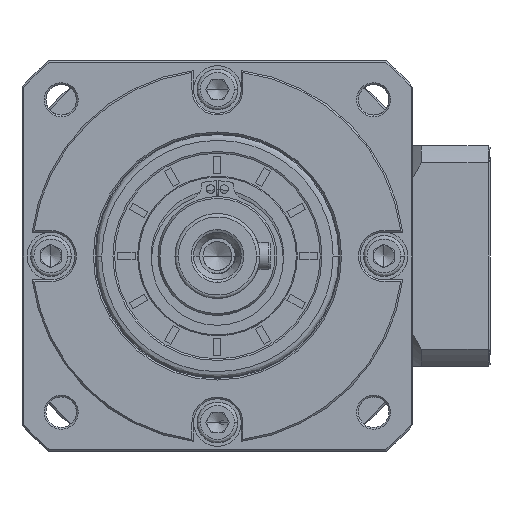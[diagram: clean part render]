
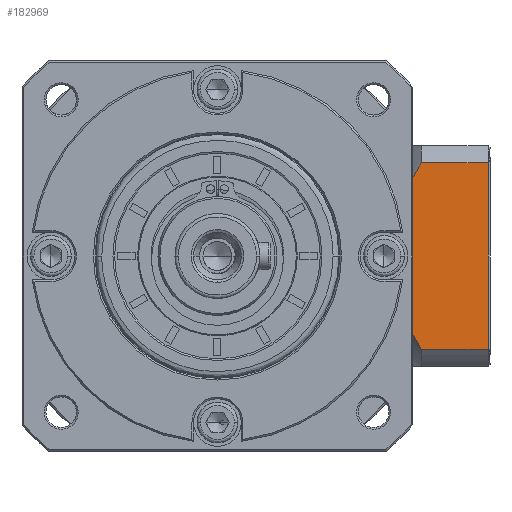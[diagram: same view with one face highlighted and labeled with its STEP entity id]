
A CAD part, left-side view. The second image highlights one B-rep face of the part: STEP entity #182969.
In plain terms, the highlighted planar face has unit normal (-1, 0, 0).
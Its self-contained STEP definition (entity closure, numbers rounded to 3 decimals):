
#1569 = CARTESIAN_POINT ( 'NONE',  ( -46.656, -41.14, -128.787 ) ) ;
#6295 = CARTESIAN_POINT ( 'NONE',  ( -46.656, -61.691, -90.7 ) ) ;
#7287 = CARTESIAN_POINT ( 'NONE',  ( -46.656, -41.14, -148.297 ) ) ;
#12885 = CARTESIAN_POINT ( 'NONE',  ( -46.656, -55.64, -88.411 ) ) ;
#13178 = LINE ( 'NONE', #7287, #46434 ) ;
#16051 = VECTOR ( 'NONE', #50154, 1000. ) ;
#16519 = LINE ( 'NONE', #168571, #54308 ) ;
#16533 = CARTESIAN_POINT ( 'NONE',  ( -46.656, -56.656, -131.33 ) ) ;
#17677 = EDGE_CURVE ( 'NONE', #95331, #93582, #30447, .T. ) ;
#18607 = EDGE_CURVE ( 'NONE', #183007, #49891, #147208, .T. ) ;
#20490 = CARTESIAN_POINT ( 'NONE',  ( -46.656, -59.636, -94.221 ) ) ;
#30447 = LINE ( 'NONE', #66626, #176661 ) ;
#30806 = CARTESIAN_POINT ( 'NONE',  ( -46.656, -57.78, -133.808 ) ) ;
#32080 = CARTESIAN_POINT ( 'NONE',  ( -46.656, -55.64, -128.787 ) ) ;
#32396 = EDGE_CURVE ( 'NONE', #117990, #93582, #13178, .T. ) ;
#34753 = CARTESIAN_POINT ( 'NONE',  ( -46.656, -56.582, -100.269 ) ) ;
#42048 = CARTESIAN_POINT ( 'NONE',  ( -46.656, -55.64, -102.807 ) ) ;
#45046 = CARTESIAN_POINT ( 'NONE',  ( -46.656, -60.29, -138.601 ) ) ;
#46232 = CARTESIAN_POINT ( 'NONE',  ( -46.656, -41.14, -102.807 ) ) ;
#46434 = VECTOR ( 'NONE', #92234, 1000. ) ;
#48432 = CARTESIAN_POINT ( 'NONE',  ( -46.656, -62.406, -89.549 ) ) ;
#49891 = VERTEX_POINT ( 'NONE', #141224 ) ;
#50154 = DIRECTION ( 'NONE',  ( 0., 0., 1. ) ) ;
#51979 = B_SPLINE_CURVE_WITH_KNOTS ( 'NONE', 3,
 ( #101500, #58137, #87236, #16533, #115768, #30806, #129969, #45046, #144120, #59354 ),
 .UNSPECIFIED., .F., .F.,
 ( 4, 2, 2, 2, 4 ),
 ( 0.101, 0.103, 0.105, 0.109, 0.117 ),
 .UNSPECIFIED. ) ;
#53848 = LINE ( 'NONE', #79304, #16051 ) ;
#54308 = VECTOR ( 'NONE', #69608, 1000. ) ;
#58137 = CARTESIAN_POINT ( 'NONE',  ( -46.656, -55.878, -129.429 ) ) ;
#59294 = ORIENTED_EDGE ( 'NONE', *, *, #18607, .F. ) ;
#59354 = CARTESIAN_POINT ( 'NONE',  ( -46.656, -63.14, -143.183 ) ) ;
#61109 = DIRECTION ( 'NONE',  ( 0., 1., 0. ) ) ;
#61142 = EDGE_CURVE ( 'NONE', #95331, #95889, #51979, .T. ) ;
#61733 = CARTESIAN_POINT ( 'NONE',  ( -46.656, -55.64, -143.183 ) ) ;
#66626 = CARTESIAN_POINT ( 'NONE',  ( -46.656, -55.64, -128.787 ) ) ;
#66831 = PLANE ( 'NONE',  #182293 ) ;
#67223 = LINE ( 'NONE', #61733, #138086 ) ;
#67535 = ORIENTED_EDGE ( 'NONE', *, *, #120169, .F. ) ;
#68744 = VERTEX_POINT ( 'NONE', #106852 ) ;
#69608 = DIRECTION ( 'NONE',  ( 0., -1., 0. ) ) ;
#69634 = EDGE_CURVE ( 'NONE', #117990, #93051, #16519, .T. ) ;
#69964 = DIRECTION ( 'NONE',  ( 0., -1., 0. ) ) ;
#71966 = VECTOR ( 'NONE', #69964, 1000. ) ;
#79304 = CARTESIAN_POINT ( 'NONE',  ( -46.656, -82.84, -148.297 ) ) ;
#80898 = EDGE_CURVE ( 'NONE', #68744, #49891, #53848, .T. ) ;
#81697 = DIRECTION ( 'NONE',  ( 1., 0., 0. ) ) ;
#87236 = CARTESIAN_POINT ( 'NONE',  ( -46.656, -56.13, -130.068 ) ) ;
#90363 = ORIENTED_EDGE ( 'NONE', *, *, #32396, .T. ) ;
#92234 = DIRECTION ( 'NONE',  ( 0., 0., -1. ) ) ;
#93051 = VERTEX_POINT ( 'NONE', #42048 ) ;
#93582 = VERTEX_POINT ( 'NONE', #1569 ) ;
#95331 = VERTEX_POINT ( 'NONE', #32080 ) ;
#95889 = VERTEX_POINT ( 'NONE', #107499 ) ;
#101500 = CARTESIAN_POINT ( 'NONE',  ( -46.656, -55.64, -128.787 ) ) ;
#104580 = ORIENTED_EDGE ( 'NONE', *, *, #80898, .T. ) ;
#105448 = CARTESIAN_POINT ( 'NONE',  ( -46.656, -60.306, -93.035 ) ) ;
#106852 = CARTESIAN_POINT ( 'NONE',  ( -46.656, -82.84, -143.183 ) ) ;
#107499 = CARTESIAN_POINT ( 'NONE',  ( -46.656, -63.14, -143.183 ) ) ;
#107793 = ORIENTED_EDGE ( 'NONE', *, *, #122252, .T. ) ;
#108537 = ORIENTED_EDGE ( 'NONE', *, *, #61142, .T. ) ;
#115768 = CARTESIAN_POINT ( 'NONE',  ( -46.656, -56.93, -131.954 ) ) ;
#117990 = VERTEX_POINT ( 'NONE', #46232 ) ;
#119707 = CARTESIAN_POINT ( 'NONE',  ( -46.656, -57.726, -97.817 ) ) ;
#120169 = EDGE_CURVE ( 'NONE', #68744, #95889, #67223, .T. ) ;
#122252 = EDGE_CURVE ( 'NONE', #183007, #93051, #165199, .T. ) ;
#129969 = CARTESIAN_POINT ( 'NONE',  ( -46.656, -58.385, -135.02 ) ) ;
#133920 = CARTESIAN_POINT ( 'NONE',  ( -46.656, -55.64, -102.807 ) ) ;
#138086 = VECTOR ( 'NONE', #61109, 1000. ) ;
#139227 = CARTESIAN_POINT ( 'NONE',  ( -46.656, -63.14, -88.411 ) ) ;
#141224 = CARTESIAN_POINT ( 'NONE',  ( -46.656, -82.84, -88.411 ) ) ;
#144120 = CARTESIAN_POINT ( 'NONE',  ( -46.656, -61.678, -140.915 ) ) ;
#144405 = ORIENTED_EDGE ( 'NONE', *, *, #17677, .F. ) ;
#145108 = EDGE_LOOP ( 'NONE', ( #67535, #104580, #59294, #107793, #162954, #90363, #144405, #108537 ) ) ;
#147208 = LINE ( 'NONE', #12885, #71966 ) ;
#147471 = CARTESIAN_POINT ( 'NONE',  ( -46.656, -63.14, -88.411 ) ) ;
#162954 = ORIENTED_EDGE ( 'NONE', *, *, #69634, .F. ) ;
#165199 = B_SPLINE_CURVE_WITH_KNOTS ( 'NONE', 3,
 ( #147471, #48432, #6295, #105448, #20490, #119707, #34753, #133920 ),
 .UNSPECIFIED., .F., .F.,
 ( 4, 2, 2, 4 ),
 ( 0.058, 0.062, 0.066, 0.074 ),
 .UNSPECIFIED. ) ;
#166385 = CARTESIAN_POINT ( 'NONE',  ( -46.656, -83.34, -148.297 ) ) ;
#168571 = CARTESIAN_POINT ( 'NONE',  ( -46.656, -55.64, -102.807 ) ) ;
#171185 = FACE_OUTER_BOUND ( 'NONE', #145108, .T. ) ;
#176661 = VECTOR ( 'NONE', #179774, 1000. ) ;
#179774 = DIRECTION ( 'NONE',  ( 0., 1., 0. ) ) ;
#180595 = DIRECTION ( 'NONE',  ( 0., 1., 0. ) ) ;
#182293 = AXIS2_PLACEMENT_3D ( 'NONE', #166385, #81697, #180595 ) ;
#182969 = ADVANCED_FACE ( 'NONE', ( #171185 ), #66831, .F. ) ;
#183007 = VERTEX_POINT ( 'NONE', #139227 ) ;
